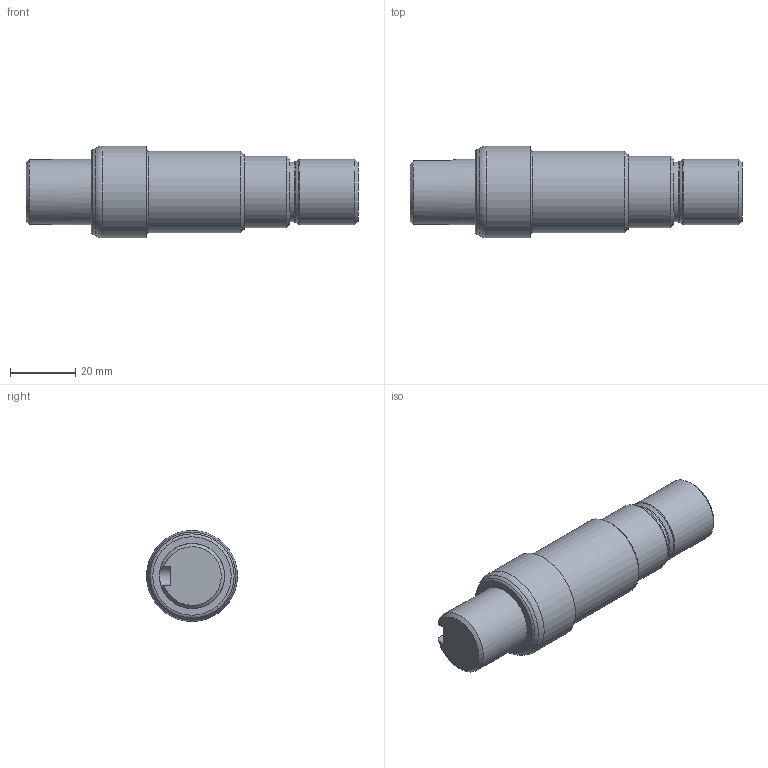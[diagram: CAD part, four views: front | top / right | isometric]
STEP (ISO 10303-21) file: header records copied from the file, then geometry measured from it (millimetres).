
FILE_DESCRIPTION(/* description */ (''),/* implementation_level */ '2;1');
FILE_NAME(/* name */ 'C:\Users\NET\Desktop\601003E1013\601003E1013.stp',/* time_stamp */ '2020-10-17T11:45:15+09:00',/* author */ ('NET'),/* organization */ (''),/* preprocessor_version */ 'ST-DEVELOPER v15.2',/* originating_system */ 'Autodesk Inventor 2014',/* authorisation */ '');
FILE_SCHEMA (('AUTOMOTIVE_DESIGN { 1 0 10303 214 3 1 1 }'));
Length unit declared in the file: millimetre
Products named in the file (1): 601003E1013
Bounding box: 102 x 28 x 28 mm (x, y, z)
Volume: 42745.9 mm3; surface area: 8462.9 mm2
Topology: 1 solids, 1 shells, 27 faces, 52 edges, 31 vertices
Faces by surface type: plane 9, cylinder 7, cone 6, torus 5
Full cylindrical faces by diameter (mm): 18.4 x1, 20 x2, 22 x1, 25 x1, 28 x1
Entity records: 634 total; most frequent: CARTESIAN_POINT 117, DIRECTION 111, ORIENTED_EDGE 72, AXIS2_PLACEMENT_3D 51, EDGE_LOOP 47, EDGE_CURVE 36, VERTEX_POINT 31, ADVANCED_FACE 27
